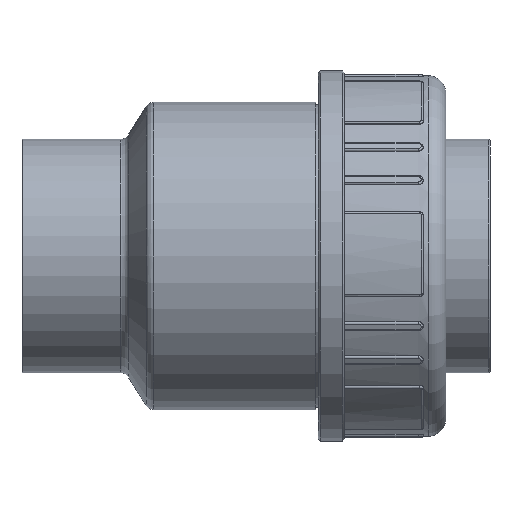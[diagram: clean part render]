
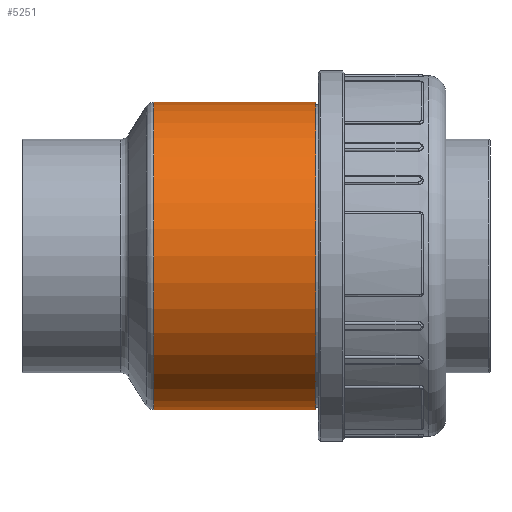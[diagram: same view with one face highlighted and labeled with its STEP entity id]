
A CAD part, left-side view. The second image highlights one B-rep face of the part: STEP entity #5251.
In plain terms, the highlighted cylindrical face has radius 69.75 mm (diameter 139.5 mm), a full revolution.
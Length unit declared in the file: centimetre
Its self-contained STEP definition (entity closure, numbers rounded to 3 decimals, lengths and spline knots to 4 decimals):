
#227=FACE_BOUND('',#1228,.T.);
#228=FACE_BOUND('',#1229,.T.);
#904=FACE_OUTER_BOUND('',#1227,.T.);
#1227=EDGE_LOOP('',(#3588));
#1228=EDGE_LOOP('',(#3589));
#1229=EDGE_LOOP('',(#3590));
#1534=B_SPLINE_CURVE_WITH_KNOTS('',3,(#8176,#8177,#8178,#8179,#8180,#8181,
#8182,#8183,#8184,#8185,#8186,#8187,#8188,#8189,#8190,#8191,#8192,#8193),
 .UNSPECIFIED.,.T.,.F.,(4,1,1,1,1,1,1,1,1,1,1,1,1,1,1,4),(-13.3893,
-12.4329,-11.4765,-10.5202,-9.5638,
-8.6074,-7.651,-7.0134,-6.3759,
-5.7383,-4.4631,-3.8255,-2.8691,-1.9128,
-0.9564,0.),.UNSPECIFIED.);
#1770=CIRCLE('',#5660,6.975);
#1773=CIRCLE('',#5665,6.975);
#2098=VERTEX_POINT('',#8165);
#2101=VERTEX_POINT('',#8173);
#2102=VERTEX_POINT('',#8175);
#2652=EDGE_CURVE('',#2098,#2098,#1770,.T.);
#2655=EDGE_CURVE('',#2101,#2101,#1773,.T.);
#2656=EDGE_CURVE('',#2102,#2102,#1534,.T.);
#3588=ORIENTED_EDGE('',*,*,#2655,.T.);
#3589=ORIENTED_EDGE('',*,*,#2656,.F.);
#3590=ORIENTED_EDGE('',*,*,#2652,.F.);
#4776=CYLINDRICAL_SURFACE('',#5664,6.975);
#5251=ADVANCED_FACE('',(#904,#227,#228),#4776,.T.);
#5660=AXIS2_PLACEMENT_3D('',#8166,#6421,#6422);
#5664=AXIS2_PLACEMENT_3D('',#8172,#6429,#6430);
#5665=AXIS2_PLACEMENT_3D('',#8174,#6431,#6432);
#6421=DIRECTION('center_axis',(0.,1.,0.));
#6422=DIRECTION('ref_axis',(1.,0.,0.));
#6429=DIRECTION('center_axis',(0.,1.,0.));
#6430=DIRECTION('ref_axis',(-1.,0.,0.));
#6431=DIRECTION('center_axis',(0.,1.,0.));
#6432=DIRECTION('ref_axis',(-1.,0.,0.));
#8165=CARTESIAN_POINT('',(-6.975,4.6037,0.));
#8166=CARTESIAN_POINT('Origin',(0.,4.6037,
0.));
#8172=CARTESIAN_POINT('Origin',(0.,-0.8,
0.));
#8173=CARTESIAN_POINT('',(6.975,-2.745,0.));
#8174=CARTESIAN_POINT('Origin',(0.,-2.745,0.));
#8175=CARTESIAN_POINT('',(6.6105,0.,2.2254));
#8176=CARTESIAN_POINT('Ctrl Pts',(6.6103,0.,
2.2254));
#8177=CARTESIAN_POINT('Ctrl Pts',(6.6103,-0.3362,2.2254));
#8178=CARTESIAN_POINT('Ctrl Pts',(6.6655,-1.0086,2.07));
#8179=CARTESIAN_POINT('Ctrl Pts',(6.8417,-1.8035,1.4365));
#8180=CARTESIAN_POINT('Ctrl Pts',(6.9804,-2.2531,0.5174));
#8181=CARTESIAN_POINT('Ctrl Pts',(6.9806,-2.253,-0.5174));
#8182=CARTESIAN_POINT('Ctrl Pts',(6.8414,-1.8037,-1.4365));
#8183=CARTESIAN_POINT('Ctrl Pts',(6.6854,-1.0964,-1.9994));
#8184=CARTESIAN_POINT('Ctrl Pts',(6.6079,-0.3407,-2.2335));
#8185=CARTESIAN_POINT('Ctrl Pts',(6.6077,0.3406,-2.2333));
#8186=CARTESIAN_POINT('Ctrl Pts',(6.6969,1.2049,-1.9667));
#8187=CARTESIAN_POINT('Ctrl Pts',(6.8651,1.8792,-1.3421));
#8188=CARTESIAN_POINT('Ctrl Pts',(6.9803,2.2527,-0.4019));
#8189=CARTESIAN_POINT('Ctrl Pts',(6.9805,2.2532,0.5171));
#8190=CARTESIAN_POINT('Ctrl Pts',(6.8416,1.8034,1.4367));
#8191=CARTESIAN_POINT('Ctrl Pts',(6.6655,1.0086,2.07));
#8192=CARTESIAN_POINT('Ctrl Pts',(6.6103,0.3362,2.2254));
#8193=CARTESIAN_POINT('Ctrl Pts',(6.6103,0.,
2.2254));
